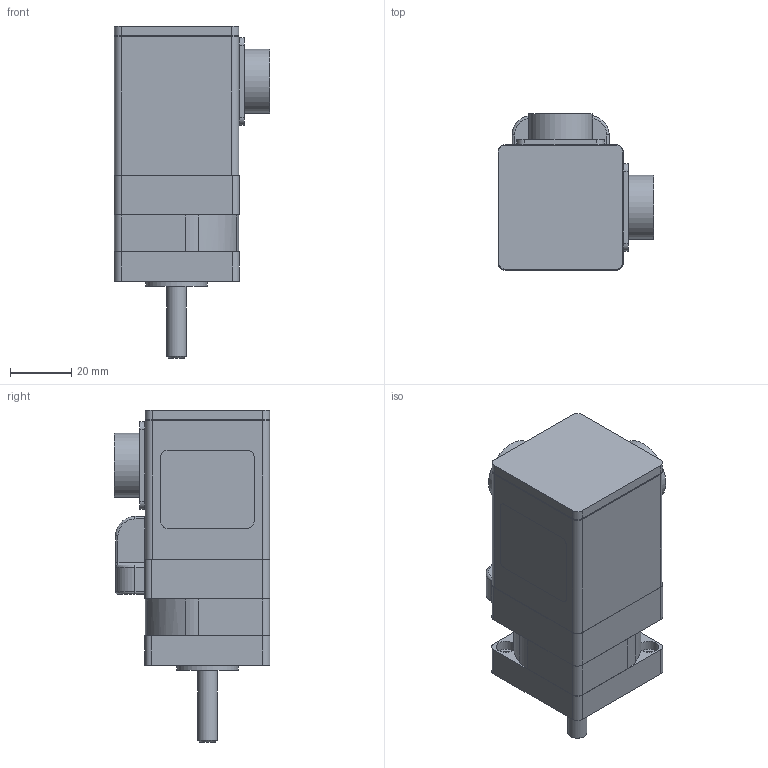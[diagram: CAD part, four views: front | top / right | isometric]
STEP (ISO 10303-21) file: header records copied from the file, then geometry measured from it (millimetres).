
FILE_DESCRIPTION((''),'2;1');
FILE_NAME('C:\CAD_work\Dummy_Modeling_Project_02-12-05\3D MODELS\BE161_MS_TQ.stp','2005-12-20T15:28:51',('jevans'),(''),'Autodesk Inventor 10','Autodesk Inventor 10','');
FILE_SCHEMA(('AUTOMOTIVE_DESIGN { 1 0 10303 214 1 1 1 1 }'));
Length unit declared in the file: inch
Products named in the file (1): BE16_MS_TQ
Bounding box: 50.98 x 50.98 x 108.53 mm (x, y, z)
Volume: 146820.6 mm3; surface area: 24147 mm2
Topology: 1 solids, 1 shells, 257 faces, 602 edges, 372 vertices
Faces by surface type: cylinder 119, plane 106, sphere 12, torus 9, bspline 9, cone 2
Full cylindrical faces by diameter (mm): 1.7 x2, 1.905 x26, 2.54 x4, 6.35 x1, 8.992 x1, 11.176 x1, 15.697 x1, 17 x1, 17.018 x2, 17.653 x1, 18.009 x1, 20.015 x1, 20.904 x2
Entity records: 6943 total; most frequent: DIRECTION 1270, CARTESIAN_POINT 1248, ORIENTED_EDGE 1020, AXIS2_PLACEMENT_3D 511, EDGE_CURVE 510, EDGE_LOOP 366, VERTEX_POINT 356, CIRCLE 262
